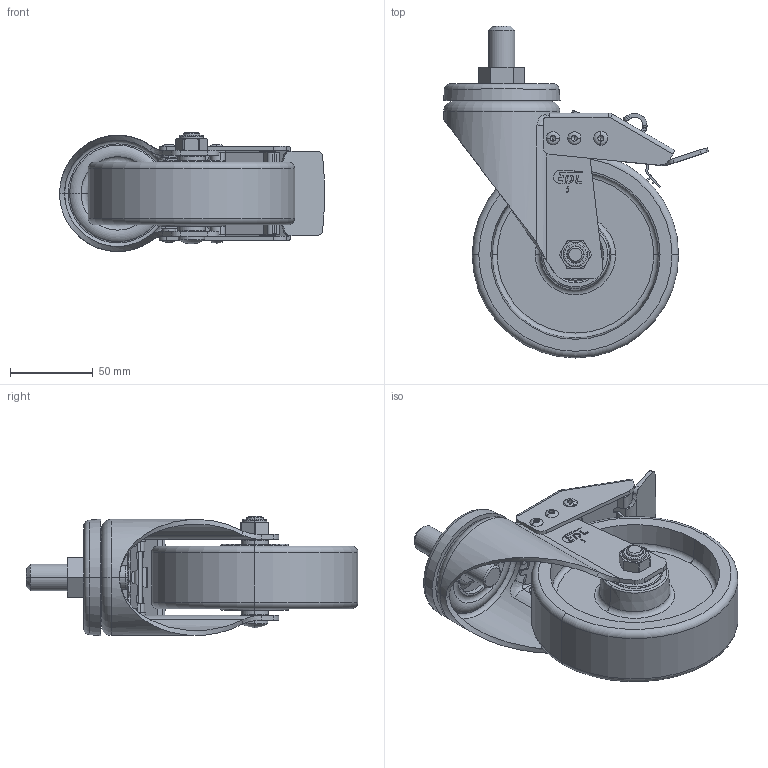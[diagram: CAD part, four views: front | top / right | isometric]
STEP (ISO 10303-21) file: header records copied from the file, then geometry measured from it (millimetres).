
FILE_DESCRIPTION((''),'2;1');
FILE_NAME('66145L-675-86A_ASM_2_ASM','2024-04-29T',('Lenovo'),(''),'PRO/ENGINEER BY PARAMETRIC TECHNOLOGY CORPORATION, 2010280','PRO/ENGINEER BY PARAMETRIC TECHNOLOGY CORPORATION, 2010280','');
FILE_SCHEMA(('CONFIG_CONTROL_DESIGN'));
Length unit declared in the file: millimetre
Products named in the file (31): 6610-053M16X25_2; 6610-251_1; 6615-311_4; 675-986A_3; MANIFOLD_SOLID_BREP_13754; MANIFOLD_SOLID_BREP_14122; MANIFOLD_SOLID_BREP_14160; MANIFOLD_SOLID_BREP_14198; MANIFOLD_SOLID_BREP_14236; MANIFOLD_SOLID_BREP_14274; MANIFOLD_SOLID_BREP_14312; MANIFOLD_SOLID_BREP_14350; MANIFOLD_SOLID_BREP_14388; MANIFOLD_SOLID_BREP_14426; MANIFOLD_SOLID_BREP_14464; MANIFOLD_SOLID_BREP_14502; MANIFOLD_SOLID_BREP_14540; MANIFOLD_SOLID_BREP_14578; MANIFOLD_SOLID_BREP_14616; 6201_1_ASM; 500-66_3; 630-54A_1; 675-86A_ASM_1_ASM; 630-33A_3; 630-34_4; PRT0001; PRT0002; PRT0003; 671-32_4; 670-32_3; 66145L-675-86A_ASM_2_ASM
Assembly tree (35 placements, depth 4):
  66145L-675-86A_ASM_2_ASM
    6610-053M16X25_2
    6610-251_1
    6615-311_4
    675-86A_ASM_1_ASM
      675-986A_3
      6201_1_ASM  x2
        MANIFOLD_SOLID_BREP_13754
        MANIFOLD_SOLID_BREP_14122
        MANIFOLD_SOLID_BREP_14160
        MANIFOLD_SOLID_BREP_14198
        MANIFOLD_SOLID_BREP_14236
        MANIFOLD_SOLID_BREP_14274
        MANIFOLD_SOLID_BREP_14312
        MANIFOLD_SOLID_BREP_14350
        MANIFOLD_SOLID_BREP_14388
        MANIFOLD_SOLID_BREP_14426
        MANIFOLD_SOLID_BREP_14464
        MANIFOLD_SOLID_BREP_14502
        MANIFOLD_SOLID_BREP_14540
        MANIFOLD_SOLID_BREP_14578
        MANIFOLD_SOLID_BREP_14616
      500-66_3  x2
      630-54A_1
    630-33A_3
    630-34_4
    PRT0001
    PRT0002
    PRT0003
    671-32_4  x4
    670-32_3
Bounding box: 160.48 x 201 x 72.29 mm (x, y, z)
Volume: 354284.7 mm3; surface area: 153095.8 mm2
Topology: 47 solids, 47 shells, 782 faces, 2134 edges, 1348 vertices
Faces by surface type: plane 275, cylinder 266, sphere 82, torus 77, cone 54, bspline 28
Entity records: 24122 total; most frequent: CARTESIAN_POINT 6277, DIRECTION 3853, ORIENTED_EDGE 3548, EDGE_CURVE 1774, AXIS2_PLACEMENT_3D 1499, VERTEX_POINT 1176, VECTOR 855, LINE 855
